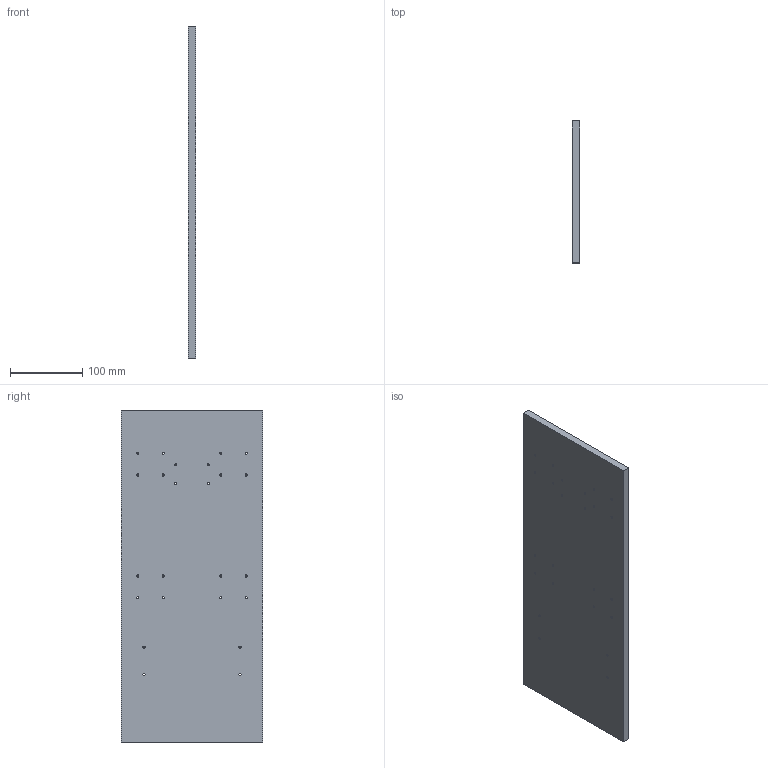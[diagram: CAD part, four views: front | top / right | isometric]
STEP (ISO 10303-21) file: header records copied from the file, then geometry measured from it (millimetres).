
FILE_DESCRIPTION(('CATIA V5 STEP Exchange'),'2;1');
FILE_NAME('E:\CNC\CNC_REV3_PLAN_FINAL\FICHIERS POUR USINAGE DES PIECES PORTIQUE\PIECES_AVEC_TROU\AxeZ_Front.stp','2016-09-06T20:13:12+00:00',('none'),('none'),'CATIA Version 5 Release 19 SP 2 (IN-10)','CATIA V5 STEP AP203','none');
FILE_SCHEMA(('CONFIG_CONTROL_DESIGN'));
Length unit declared in the file: millimetre
Products named in the file (1): AxeZ_Partie_Mobile
Bounding box: 10 x 196 x 460 mm (x, y, z)
Volume: 899903.5 mm3; surface area: 195362.7 mm2
Topology: 1 solids, 1 shells, 54 faces, 156 edges, 104 vertices
Faces by surface type: cylinder 48, plane 6
Entity records: 1758 total; most frequent: ORIENTED_EDGE 312, CARTESIAN_POINT 291, DIRECTION 216, EDGE_CURVE 156, AXIS2_PLACEMENT_3D 127, VERTEX_POINT 104, EDGE_LOOP 102, CIRCLE 96
